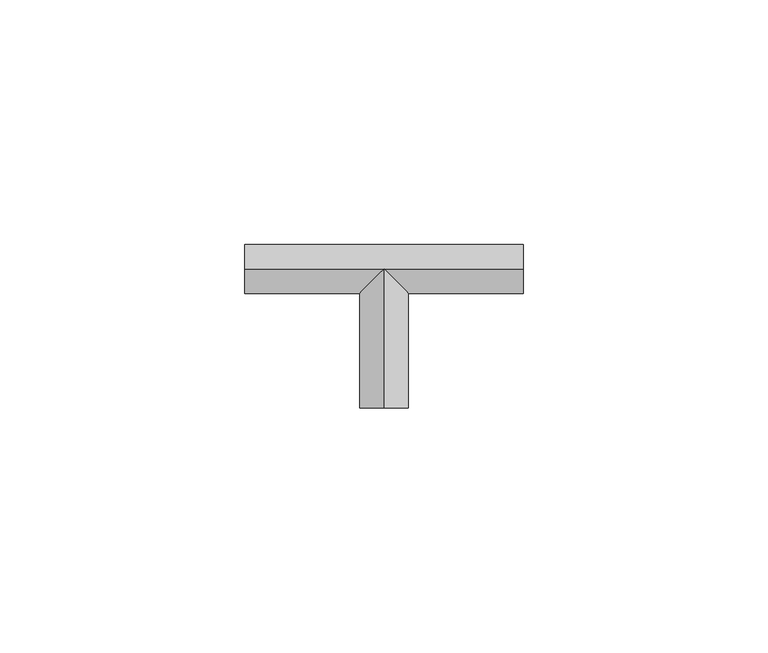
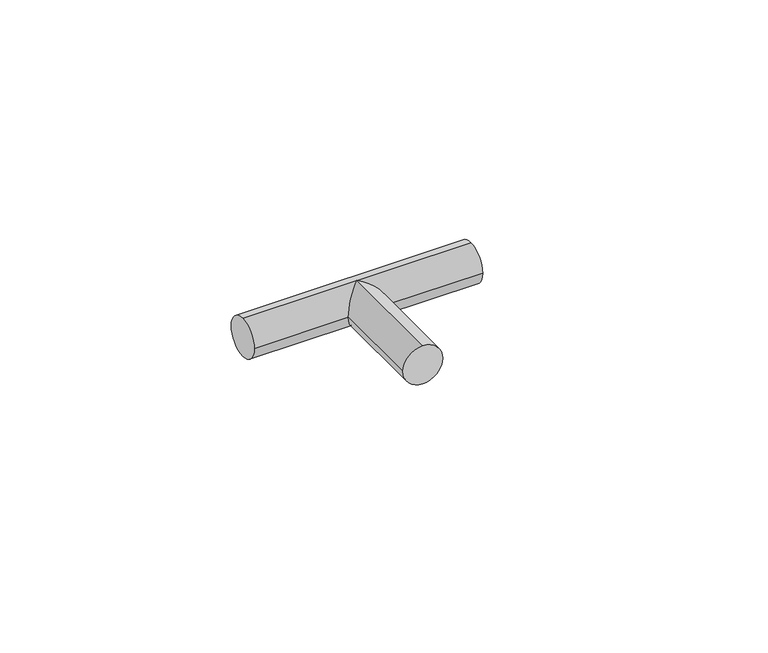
"""IFC4 building model written with IfcOpenShell, lengths in millimetres: duct fitting geometry, КНС_Тройник_Пруток_Неспецифицируемое_DKC : NG3104CU_NG3109CU_Медь."""

from ifc_helpers import new_model, si_unit, frame, origin, place, context, project, spatial, circle_curve, ellipse_curve, source, transform, mapped, element, save
from ifc_brep_helpers import plane_surface, cylinder_surface, advanced_brep


def duct_fitting_7b14a912(model_context):
    return source(origin(), model_context, "Body", "AdvancedBrep", [
        advanced_brep(
        [(0.0, -28.5, 5.0), (-5.0, -28.5, 0.0), (0.0, -28.5, -5.0), (5.0, -28.5, 0.0), (5.0, -5.0, 0.0), (0.0, 0.0, 5.0), (0.0, 0.0, -5.0), (-5.0, -5.0, 0.0), (-28.5, 0.0, 5.0), (-28.5, 5.0, 0.0), (-28.5, 0.0, -5.0), (-28.5, -5.0, 0.0), (28.5, 0.0, 5.0), (28.5, -5.0, 0.0), (28.5, 0.0, -5.0), (28.5, 5.0, 0.0)],
        [
            (0, 1, circle_curve(frame((0.0, -28.5, 0.0), z_axis=(0.0, -1.0, 0.0), x_axis=(1.0, 0.0, 0.0)), 5.0)),
            (1, 2, circle_curve(frame((0.0, -28.5, 0.0), z_axis=(0.0, -1.0, 0.0), x_axis=(1.0, 0.0, 0.0)), 5.0)),
            (2, 3, circle_curve(frame((0.0, -28.5, 0.0), z_axis=(0.0, -1.0, 0.0), x_axis=(1.0, 0.0, 0.0)), 5.0)),
            (3, 0, circle_curve(frame((0.0, -28.5, 0.0), z_axis=(0.0, -1.0, 0.0), x_axis=(1.0, 0.0, 0.0)), 5.0)),
            (3, 4),
            (4, 5, ellipse_curve(frame((0.0, 0.0, 0.0), z_axis=(-0.7071067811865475, -0.7071067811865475, 0.0), x_axis=(-0.7071067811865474, 0.7071067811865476, 0.0)), 7.0710678, 5.0)),
            (5, 0),
            (2, 6),
            (6, 4, ellipse_curve(frame((0.0, 0.0, 0.0), z_axis=(-0.7071067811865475, -0.7071067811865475, 0.0), x_axis=(-0.7071067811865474, 0.7071067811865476, 0.0)), 7.0710678, 5.0)),
            (1, 7),
            (7, 6, ellipse_curve(frame((0.0, 0.0, 0.0), z_axis=(0.7071067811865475, -0.7071067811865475, 0.0), x_axis=(0.7071067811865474, 0.7071067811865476, 0.0)), 7.0710678, 5.0)),
            (5, 7, ellipse_curve(frame((0.0, 0.0, 0.0), z_axis=(0.7071067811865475, -0.7071067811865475, 0.0), x_axis=(0.7071067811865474, 0.7071067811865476, 0.0)), 7.0710678, 5.0)),
            (8, 9, circle_curve(frame((-28.5, 0.0, 0.0), z_axis=(-1.0, 0.0, 0.0), x_axis=(0.0, 1.0, 0.0)), 5.0)),
            (9, 10, circle_curve(frame((-28.5, 0.0, 0.0), z_axis=(-1.0, 0.0, 0.0), x_axis=(0.0, 1.0, 0.0)), 5.0)),
            (10, 11, circle_curve(frame((-28.5, 0.0, 0.0), z_axis=(-1.0, 0.0, 0.0), x_axis=(0.0, 1.0, 0.0)), 5.0)),
            (11, 8, circle_curve(frame((-28.5, 0.0, 0.0), z_axis=(-1.0, 0.0, 0.0), x_axis=(0.0, 1.0, 0.0)), 5.0)),
            (12, 13, circle_curve(frame((28.5, 0.0, 0.0), z_axis=(1.0, 0.0, 0.0), x_axis=(0.0, 1.0, 0.0)), 5.0)),
            (13, 14, circle_curve(frame((28.5, 0.0, 0.0), z_axis=(1.0, 0.0, 0.0), x_axis=(0.0, 1.0, 0.0)), 5.0)),
            (14, 15, circle_curve(frame((28.5, 0.0, 0.0), z_axis=(1.0, 0.0, 0.0), x_axis=(0.0, 1.0, 0.0)), 5.0)),
            (15, 12, circle_curve(frame((28.5, 0.0, 0.0), z_axis=(1.0, 0.0, 0.0), x_axis=(0.0, 1.0, 0.0)), 5.0)),
            (8, 5),
            (5, 12),
            (15, 9),
            (14, 6),
            (6, 10),
            (7, 11),
            (13, 4),
        ],
        [
            plane_surface(frame((0.0, -28.5, 0.0), z_axis=(0.0, -1.0, 0.0), x_axis=(0.0, 0.0, 1.0))),
            cylinder_surface(frame((0.0, 0.0, 0.0), z_axis=(0.0, 1.0, 0.0), x_axis=(1.0, 0.0, 0.0)), 5.0),
            plane_surface(frame((-28.5, 0.0, 0.0), z_axis=(-1.0, 0.0, 0.0), x_axis=(0.0, 0.0, 1.0))),
            plane_surface(frame((28.5, 0.0, 0.0), z_axis=(1.0, 0.0, 0.0), x_axis=(0.0, 0.0, 1.0))),
            cylinder_surface(frame((-28.5, 0.0, 0.0), z_axis=(-1.0, 0.0, 0.0), x_axis=(0.0, 1.0, 0.0)), 5.0),
        ],
        [
            (0, [[1, 2, 3, 4]]),
            (1, [[-4, 5, 6, 7]]),
            (1, [[-3, 8, 9, -5]]),
            (1, [[-2, 10, 11, -8]]),
            (1, [[-1, -7, 12, -10]]),
            (2, [[13, 14, 15, 16]]),
            (3, [[17, 18, 19, 20]]),
            (4, [[-13, 21, 22, -20, 23]]),
            (4, [[-14, -23, -19, 24, 25]]),
            (4, [[-15, -25, -11, 26]]),
            (4, [[-18, 27, -9, -24]]),
            (4, [[-16, -26, -12, -21]]),
            (4, [[-17, -22, -6, -27]]),
        ],
    ),
    ])


if __name__ == "__main__":
    model = new_model("IFC4")
    model_context = context("Model", 3, world=origin())
    ifc_project = project(units=[si_unit("LENGTHUNIT", "METRE", prefix="MILLI")], contexts=[model_context])
    site = spatial("IfcSite", under=ifc_project)
    building = spatial("IfcBuilding", under=site)
    placement = place(None, origin())
    duct_fitting_shape = duct_fitting_7b14a912(model_context)
    element("IfcDuctFitting", 1, ObjectType="КНС_Тройник_Пруток_Неспецифицируемое_DKC : NG3104CU_NG3109CU_Медь", at=placement, inside=building, context=model_context, shape_type="MappedRepresentation", body=[
        mapped(duct_fitting_shape, transform((0.0, 0.0, 0.0), x_axis=(1.0, 0.0, 0.0), y_axis=(0.0, 1.0, 0.0), z_axis=(0.0, 0.0, 1.0))),
    ])
    save(model, "model.ifc")
